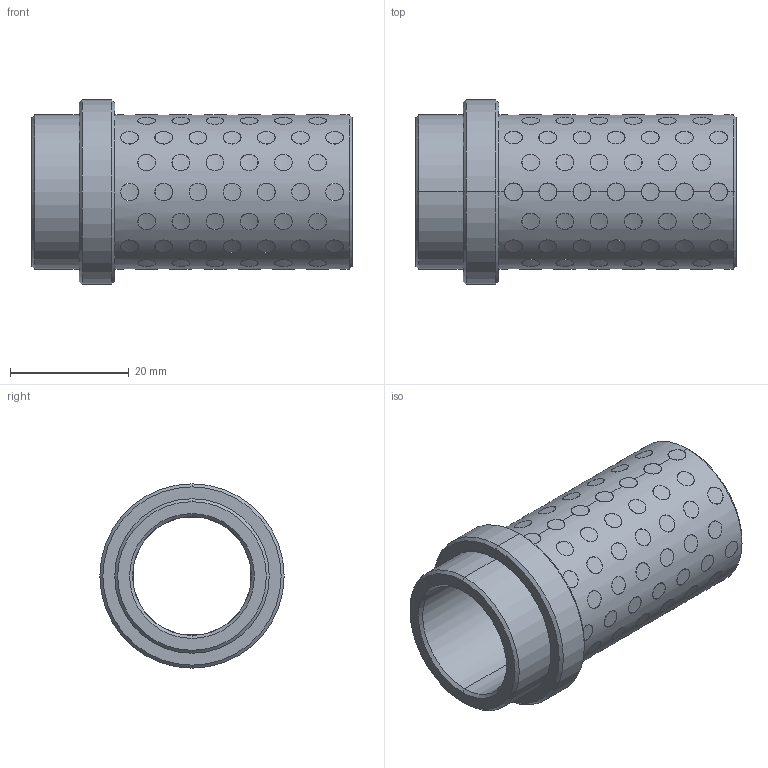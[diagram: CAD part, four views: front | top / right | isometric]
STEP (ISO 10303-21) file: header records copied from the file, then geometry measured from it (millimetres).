
FILE_DESCRIPTION((''),'2;1');
FILE_NAME('G31220046','2017-12-30T',('MANU'),(''),'PRO/ENGINEER BY PARAMETRIC TECHNOLOGY CORPORATION, 2012130','PRO/ENGINEER BY PARAMETRIC TECHNOLOGY CORPORATION, 2012130','');
FILE_SCHEMA(('CONFIG_CONTROL_DESIGN'));
Length unit declared in the file: millimetre
Products named in the file (1): G31220046
Bounding box: 54 x 31 x 31 mm (x, y, z)
Volume: 12915.2 mm3; surface area: 14445.1 mm2
Topology: 105 solids, 105 shells, 648 faces, 1380 edges, 916 vertices
Faces by surface type: cylinder 632, cone 12, plane 4
Entity records: 29778 total; most frequent: CARTESIAN_POINT 17172, ORIENTED_EDGE 2760, DIRECTION 1816, EDGE_CURVE 1380, VERTEX_POINT 916, B_SPLINE_CURVE_WITH_KNOTS 888, EDGE_LOOP 832, AXIS2_PLACEMENT_3D 676
